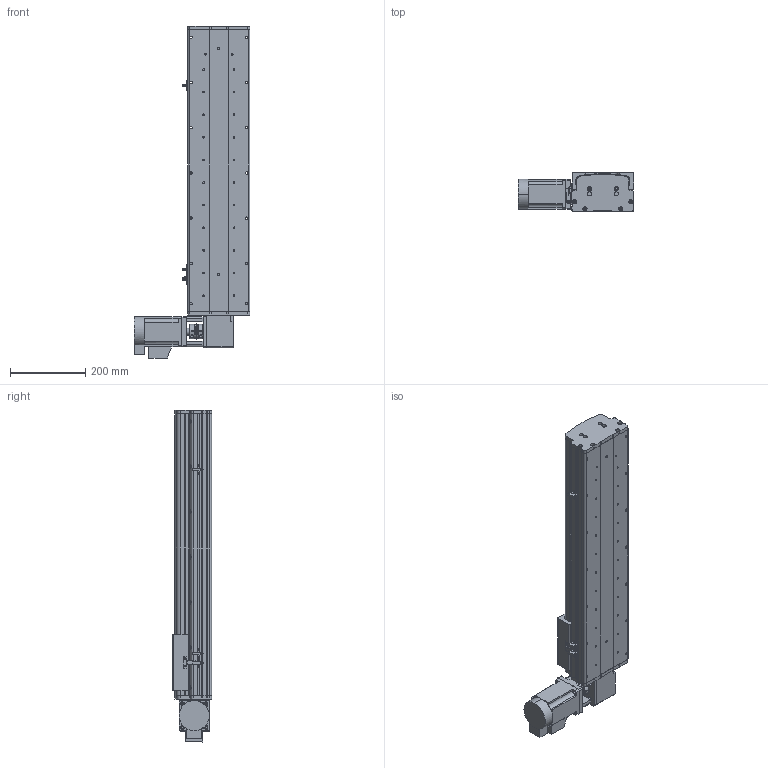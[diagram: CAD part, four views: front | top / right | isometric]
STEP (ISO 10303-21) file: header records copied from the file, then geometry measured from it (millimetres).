
FILE_DESCRIPTION (( 'STEP AP214' ), '1' );
FILE_NAME ('KSD165B-S500-MRT-CM.STEP', '2017-10-17T01:10:45', ( '微软用户' ), ( '微软中国' ), 'SwSTEP 2.0', 'SolidWorks 2014', '' );
FILE_SCHEMA (( 'AUTOMOTIVE_DESIGN' ));
Length unit declared in the file: millimetre
Products named in the file (16): KSD165耀郪-ヶ傷啣1-肮祭湍; KSD165模组-后端板1-同步带; 130宽马达安装板1-带电机座750W（1）; KSD165模组-同步带滑动座-最新版; KSD165模组同步带底板-500行程-最新; KSD165B-S500-MRT-CM; 拸秶雄ん750W侜督萇儂; 165宽安装板同步带带电机座750W; 165宽马达安装板同步带左-改; C39ㄜ1419WP; KSD165模组-同步带防尘盖1-500行程-最新版; U倰嫖萇假蚾璃; U倰嫖萇EEㄜSX672; 覜茼え68遵圉猾敕; KSD165模组-同步带-防撞垫2; KSD165模组同步带-防撞垫1
Assembly tree (19 placements, depth 2):
  KSD165B-S500-MRT-CM
    KSD165模组同步带底板-500行程-最新
    KSD165模组-同步带滑动座-最新版
    130宽马达安装板1-带电机座750W（1）
    KSD165模组-后端板1-同步带
    KSD165耀郪-ヶ傷啣1-肮祭湍
    KSD165模组同步带-防撞垫1
    KSD165模组-同步带-防撞垫2
    覜茼え68遵圉猾敕
    U倰嫖萇EEㄜSX672  x3
    U倰嫖萇假蚾璃  x3
    KSD165模组-同步带防尘盖1-500行程-最新版
    C39ㄜ1419WP
    165宽马达安装板同步带左-改
    165宽安装板同步带带电机座750W
    拸秶雄ん750W侜督萇儂
Bounding box: 307.5 x 104 x 881.06 mm (x, y, z)
Volume: 5627964.5 mm3; surface area: 1251207.8 mm2
Topology: 20 solids, 21 shells, 1442 faces, 3996 edges, 2585 vertices
Faces by surface type: cylinder 773, plane 575, cone 94
Entity records: 45283 total; most frequent: CARTESIAN_POINT 9511, DIRECTION 7066, ORIENTED_EDGE 6644, EDGE_CURVE 3322, AXIS2_PLACEMENT_3D 2676, VERTEX_POINT 2177, LINE 1714, VECTOR 1714
